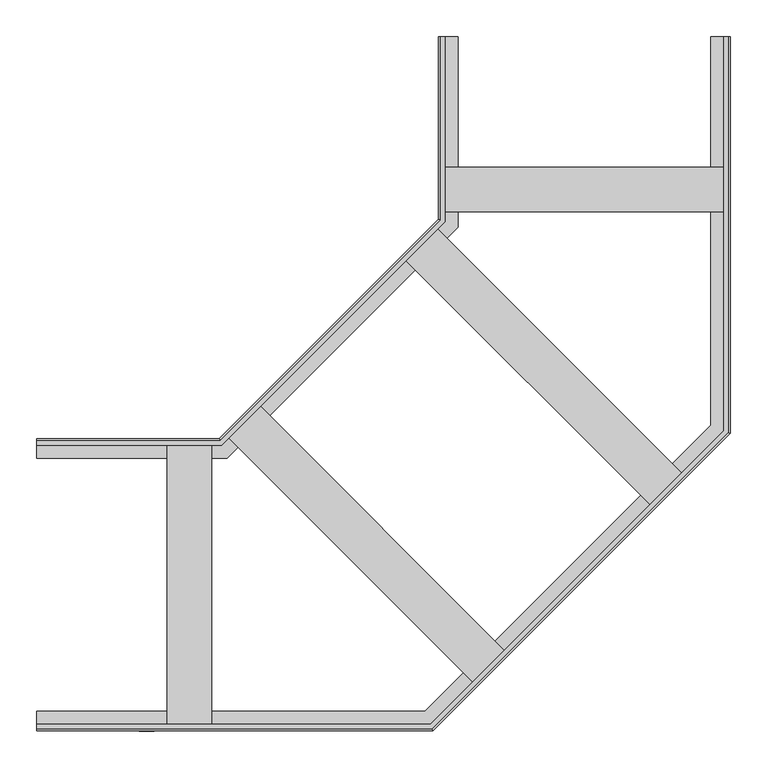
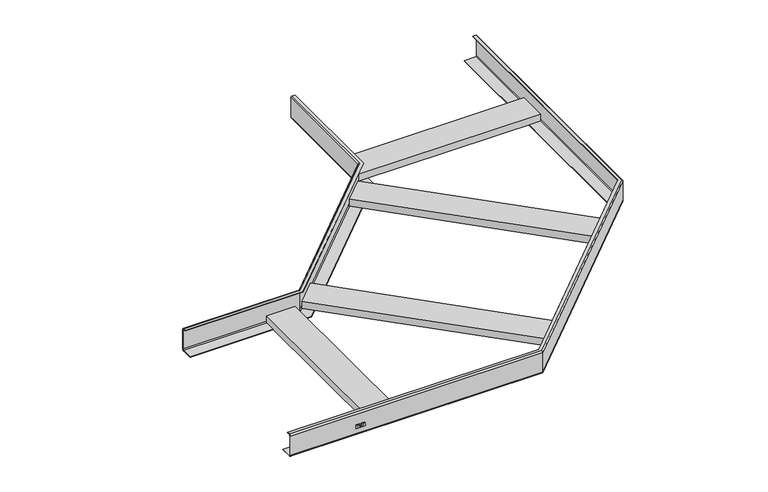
"""IFC4 building model written with IfcOpenShell, lengths in millimetres: cable carrier fitting geometry, КМ Профиль L Угол горизонтальный LGL90 : Угол горизонтальный LGL90."""

from ifc_helpers import new_model, si_unit, frame, origin, place, context, project, spatial, polyline, circle_curve, ellipse_curve, outline, extrude, source, transform, mapped, element, save
from ifc_brep_helpers import plane_surface, cylinder_surface, revolved_surface, advanced_brep


def cable_carrier_fitting_28980c71(model_context):
    return source(origin(), model_context, "Body", "SolidModel", [
        extrude(outline(polyline([(-1.986157, -609.2388781), (-9.737421, -609.2388781), (-9.737421, -605.6630512), (-6.5720802, -605.6630512), (-9.737421, -603.9588467), (-9.737421, -600.0604353), (-6.194034, -601.9277444), (-5.5086619, -604.1694955), (-1.986157, -601.703011), (-1.986157, -603.8289757), (-5.564509, -605.7316192), (-1.986157, -605.7316192), (-1.986157, -609.2388781)])), frame((0.0, -200.8, 0.0), z_axis=(0.0, 1.0, 0.0), x_axis=(0.0, 0.0, 1.0)), (0.0, 0.0, 1.0), 0.8),
        extrude(outline(polyline([(-9.737421, -597.9962759), (-5.0696135, -597.6126012), (-9.7434681, -596.2045824), (-9.7434681, -594.7300717), (-5.0541919, -593.2500032), (-9.7429915, -592.7725105), (-9.7429915, -588.8700699), (-1.9623682, -590.0615674), (-1.9623682, -593.2555223), (-5.0390232, -594.2768297), (-1.9647569, -595.0433304), (-1.9647569, -598.0740589), (-9.737421, -599.8943395), (-9.737421, -597.9962759)])), frame((0.0, -200.8, 0.0), z_axis=(0.0, 1.0, 0.0), x_axis=(0.0, 0.0, 1.0)), (0.0, 0.0, 1.0), 0.8),
        extrude(outline(polyline([(-510.0, 197.0), (-510.0, -197.0), (-571.0, -197.0), (-571.0, 197.0), (-510.0, 197.0)])), frame((0.0, 0.0, -24.0), z_axis=(0.0, 0.0, 1.0), x_axis=(1.0, 0.0, 0.0)), (0.0, 0.0, 1.0), 16.0),
        extrude(outline(polyline([(197.0, 571.0), (197.0, 510.0), (-197.0, 510.0), (-197.0, 571.0), (197.0, 571.0)])), frame((0.0, 0.0, -24.0), z_axis=(0.0, 0.0, 1.0), x_axis=(1.0, 0.0, 0.0)), (0.0, 0.0, 1.0), 16.0),
        extrude(outline(polyline([(137.2899346, 148.5679298), (94.156421, 105.4344161), (-248.0832611, 447.6740982), (-204.9497475, 490.8076118), (137.2899346, 148.5679298)])), frame((0.0, 0.0, -24.0), z_axis=(0.0, 0.0, 1.0), x_axis=(1.0, 0.0, 0.0)), (0.0, 0.0, 1.0), 16.0),
        extrude(outline(polyline([(-105.4344161, -94.156421), (-148.5679298, -137.2899346), (-490.8076118, 204.9497475), (-447.6740982, 248.0832611), (-105.4344161, -94.156421)])), frame((0.0, 0.0, -24.0), z_axis=(0.0, 0.0, 1.0), x_axis=(1.0, 0.0, 0.0)), (0.0, 0.0, 1.0), 16.0),
        advanced_brep(
        [(191.0, 750.0, 25.0), (197.0, 750.0, 25.0), (200.0, 750.0, 22.0), (200.0, 750.0, -22.0), (197.0, 750.0, -25.0), (173.0, 750.0, -25.0), (173.0, 750.0, -24.0), (197.0, 750.0, -24.0), (199.0, 750.0, -22.0), (199.0, 750.0, 22.0), (197.0, 750.0, 24.0), (191.0, 750.0, 24.0), (191.0, 210.7632765, 25.0), (-210.7632765, -191.0, 25.0), (-750.0, -191.0, 25.0), (-750.0, -197.0, 25.0), (-208.2779951, -197.0, 25.0), (197.0, 208.2779951, 25.0), (200.0, 207.0353544, 22.0), (200.0, 207.0353544, -22.0), (197.0, 208.2779951, -25.0), (-208.2779951, -197.0, -25.0), (-750.0, -197.0, -25.0), (-750.0, -173.0, -25.0), (-218.2191206, -173.0, -25.0), (173.0, 218.2191206, -25.0), (173.0, 218.2191206, -24.0), (-218.2191206, -173.0, -24.0), (-750.0, -173.0, -24.0), (-750.0, -197.0, -24.0), (-208.2779951, -197.0, -24.0), (197.0, 208.2779951, -24.0), (199.0, 207.449568, -22.0), (199.0, 207.449568, 22.0), (197.0, 208.2779951, 24.0), (-208.2779951, -197.0, 24.0), (-750.0, -197.0, 24.0), (-750.0, -191.0, 24.0), (-210.7632765, -191.0, 24.0), (191.0, 210.7632765, 24.0), (-207.0353544, -200.0, 22.0), (-207.0353544, -200.0, -22.0), (-207.449568, -199.0, -22.0), (-207.449568, -199.0, 22.0), (-750.0, -199.0, 22.0), (-750.0, -199.0, -22.0), (-750.0, -200.0, -22.0), (-750.0, -200.0, 22.0)],
        [
            (0, 1),
            (1, 2, circle_curve(frame((197.0, 750.0, 22.0), z_axis=(0.0, 1.0, 0.0), x_axis=(-1.0, 0.0, 0.0)), 3.0)),
            (2, 3),
            (3, 4, circle_curve(frame((197.0, 750.0, -22.0), z_axis=(0.0, 1.0, 0.0), x_axis=(-1.0, 0.0, 0.0)), 3.0)),
            (4, 5),
            (5, 6),
            (6, 7),
            (7, 8, circle_curve(frame((197.0, 750.0, -22.0), z_axis=(0.0, -1.0, 0.0), x_axis=(-1.0, 0.0, 0.0)), 2.0)),
            (8, 9),
            (9, 10, circle_curve(frame((197.0, 750.0, 22.0), z_axis=(0.0, -1.0, 0.0), x_axis=(-1.0, 0.0, 0.0)), 2.0)),
            (10, 11),
            (11, 0),
            (0, 12),
            (12, 13),
            (13, 14),
            (14, 15),
            (15, 16),
            (16, 17),
            (17, 1),
            (17, 18, ellipse_curve(frame((197.0, 208.2779951, 22.0), z_axis=(0.3826834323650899, 0.9238795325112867, 0.0), x_axis=(-0.9238795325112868, 0.3826834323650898, 0.0)), 3.2471766, 3.0)),
            (18, 2),
            (18, 19),
            (19, 3),
            (19, 20, ellipse_curve(frame((197.0, 208.2779951, -22.0), z_axis=(0.3826834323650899, 0.9238795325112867, 0.0), x_axis=(-0.9238795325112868, 0.3826834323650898, 0.0)), 3.2471766, 3.0)),
            (20, 4),
            (20, 21),
            (21, 22),
            (22, 23),
            (23, 24),
            (24, 25),
            (25, 5),
            (25, 26),
            (26, 6),
            (26, 27),
            (27, 28),
            (28, 29),
            (29, 30),
            (30, 31),
            (31, 7),
            (31, 32, ellipse_curve(frame((197.0, 208.2779951, -22.0), z_axis=(-0.3826834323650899, -0.9238795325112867, 0.0), x_axis=(0.9238795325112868, -0.3826834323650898, 0.0)), 2.1647844, 2.0)),
            (32, 8),
            (32, 33),
            (33, 9),
            (33, 34, ellipse_curve(frame((197.0, 208.2779951, 22.0), z_axis=(-0.3826834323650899, -0.9238795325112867, 0.0), x_axis=(0.9238795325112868, -0.3826834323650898, 0.0)), 2.1647844, 2.0)),
            (34, 10),
            (34, 35),
            (35, 36),
            (36, 37),
            (37, 38),
            (38, 39),
            (39, 11),
            (39, 12),
            (16, 40, ellipse_curve(frame((-208.2779951, -197.0, 22.0), z_axis=(0.9238795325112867, 0.38268343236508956, 0.0), x_axis=(-0.3826834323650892, 0.923879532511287, 0.0)), 3.2471766, 3.0)),
            (40, 18),
            (40, 41),
            (41, 19),
            (41, 21, ellipse_curve(frame((-208.2779951, -197.0, -22.0), z_axis=(0.9238795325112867, 0.38268343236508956, 0.0), x_axis=(-0.3826834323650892, 0.923879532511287, 0.0)), 3.2471766, 3.0)),
            (24, 27),
            (30, 42, ellipse_curve(frame((-208.2779951, -197.0, -22.0), z_axis=(-0.9238795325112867, -0.38268343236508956, 0.0), x_axis=(0.3826834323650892, -0.923879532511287, 0.0)), 2.1647844, 2.0)),
            (42, 32),
            (42, 43),
            (43, 33),
            (43, 35, ellipse_curve(frame((-208.2779951, -197.0, 22.0), z_axis=(-0.9238795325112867, -0.38268343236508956, 0.0), x_axis=(0.3826834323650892, -0.923879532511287, 0.0)), 2.1647844, 2.0)),
            (38, 13),
            (14, 37),
            (36, 44, circle_curve(frame((-750.0, -197.0, 22.0), z_axis=(1.0, 0.0, 0.0), x_axis=(0.0, 1.0, 0.0)), 2.0)),
            (44, 45),
            (45, 29, circle_curve(frame((-750.0, -197.0, -22.0), z_axis=(1.0, 0.0, 0.0), x_axis=(0.0, 1.0, 0.0)), 2.0)),
            (28, 23),
            (22, 46, circle_curve(frame((-750.0, -197.0, -22.0), z_axis=(-1.0, 0.0, 0.0), x_axis=(0.0, 1.0, 0.0)), 3.0)),
            (46, 47),
            (47, 15, circle_curve(frame((-750.0, -197.0, 22.0), z_axis=(-1.0, 0.0, 0.0), x_axis=(0.0, 1.0, 0.0)), 3.0)),
            (47, 40),
            (46, 41),
            (45, 42),
            (44, 43),
        ],
        [
            plane_surface(frame((200.0, 750.0, -25.0), z_axis=(0.0, 1.0, 0.0), x_axis=(0.0, 0.0, -1.0))),
            plane_surface(frame((191.0, 750.0, 25.0), z_axis=(0.0, 0.0, 1.0), x_axis=(0.0, -1.0, 0.0))),
            cylinder_surface(frame((197.0, 750.0, 22.0), z_axis=(0.0, 1.0, 0.0), x_axis=(-1.0, 0.0, 0.0)), 3.0),
            plane_surface(frame((200.0, 750.0, 22.0), z_axis=(1.0, 0.0, 0.0), x_axis=(0.0, -1.0, 0.0))),
            cylinder_surface(frame((197.0, 750.0, -22.0), z_axis=(0.0, 1.0, 0.0), x_axis=(-1.0, 0.0, 0.0)), 3.0),
            plane_surface(frame((197.0, 750.0, -25.0), z_axis=(0.0, 0.0, -1.0), x_axis=(0.0, -1.0, 0.0))),
            plane_surface(frame((173.0, 750.0, -25.0), z_axis=(-1.0, 0.0, 0.0), x_axis=(0.0, -1.0, 0.0))),
            plane_surface(frame((173.0, 750.0, -24.0), z_axis=(0.0, 0.0, 1.0), x_axis=(0.0, -1.0, 0.0))),
            revolved_surface(polyline([(195.0, 207.44956797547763, -22.0), (195.0, 750.0, -22.0)]), (197.0, 750.0, -22.0), (0.0, -1.0, 0.0)),
            plane_surface(frame((199.0, 750.0, -22.0), z_axis=(-1.0, 0.0, 0.0), x_axis=(0.0, -1.0, 0.0))),
            revolved_surface(polyline([(195.0, 207.44956797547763, 22.0), (195.0, 750.0, 22.0)]), (197.0, 750.0, 22.0), (0.0, -1.0, 0.0)),
            plane_surface(frame((197.0, 750.0, 24.0), z_axis=(0.0, 0.0, -1.0), x_axis=(0.0, -1.0, 0.0))),
            plane_surface(frame((191.0, 750.0, 24.0), z_axis=(-1.0, 0.0, 0.0), x_axis=(0.0, -1.0, 0.0))),
            cylinder_surface(frame((197.8786797, 209.1566748, 22.0), z_axis=(0.7071067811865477, 0.7071067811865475, 0.0), x_axis=(-0.7071067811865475, 0.7071067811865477, 0.0)), 3.0),
            plane_surface(frame((200.0, 207.0353544, 22.0), z_axis=(0.7071067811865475, -0.7071067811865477, 0.0), x_axis=(-0.7071067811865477, -0.7071067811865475, 0.0))),
            cylinder_surface(frame((197.8786797, 209.1566748, -22.0), z_axis=(0.7071067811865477, 0.7071067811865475, 0.0), x_axis=(-0.7071067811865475, 0.7071067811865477, 0.0)), 3.0),
            plane_surface(frame((173.0, 218.2191206, -25.0), z_axis=(-0.7071067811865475, 0.7071067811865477, 0.0), x_axis=(-0.7071067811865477, -0.7071067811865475, 0.0))),
            revolved_surface(polyline([(-210.2779951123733, -196.17157288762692, -22.0), (196.1715728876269, 210.2779951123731, -22.0)]), (197.8786797, 209.1566748, -22.0), (-0.7071067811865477, -0.7071067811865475, 0.0)),
            plane_surface(frame((199.0, 207.449568, -22.0), z_axis=(-0.7071067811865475, 0.7071067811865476, 0.0), x_axis=(-0.7071067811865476, -0.7071067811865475, 0.0))),
            revolved_surface(polyline([(-210.2779951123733, -196.17157288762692, 22.0), (196.1715728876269, 210.2779951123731, 22.0)]), (197.8786797, 209.1566748, 22.0), (-0.7071067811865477, -0.7071067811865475, 0.0)),
            plane_surface(frame((191.0, 210.7632765, 24.0), z_axis=(-0.7071067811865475, 0.7071067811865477, 0.0), x_axis=(-0.7071067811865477, -0.7071067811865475, 0.0))),
            plane_surface(frame((-750.0, -200.0, -25.0), z_axis=(-1.0, 0.0, 0.0), x_axis=(0.0, 0.0, -1.0))),
            cylinder_surface(frame((-207.0353544, -197.0, 22.0), z_axis=(1.0, 0.0, 0.0), x_axis=(0.0, 1.0, 0.0)), 3.0),
            plane_surface(frame((-207.0353544, -200.0, 22.0), z_axis=(0.0, -1.0, 0.0), x_axis=(-1.0, 0.0, 0.0))),
            cylinder_surface(frame((-207.0353544, -197.0, -22.0), z_axis=(1.0, 0.0, 0.0), x_axis=(0.0, 1.0, 0.0)), 3.0),
            plane_surface(frame((-218.2191206, -173.0, -25.0), z_axis=(0.0, 1.0, 0.0), x_axis=(-1.0, 0.0, 0.0))),
            revolved_surface(polyline([(-750.0, -195.0, -22.0), (-207.4495679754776, -195.0, -22.0)]), (-207.0353544, -197.0, -22.0), (-1.0, 0.0, 0.0)),
            plane_surface(frame((-207.449568, -199.0, -22.0), z_axis=(0.0, 1.0, 0.0), x_axis=(-1.0, 0.0, 0.0))),
            revolved_surface(polyline([(-750.0, -195.0, 22.0), (-207.4495679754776, -195.0, 22.0)]), (-207.0353544, -197.0, 22.0), (-1.0, 0.0, 0.0)),
            plane_surface(frame((-210.7632765, -191.0, 24.0), z_axis=(0.0, 1.0, 0.0), x_axis=(-1.0, 0.0, 0.0))),
        ],
        [
            (0, [[1, 2, 3, 4, 5, 6, 7, 8, 9, 10, 11, 12]]),
            (1, [[-1, 13, 14, 15, 16, 17, 18, 19]]),
            (2, [[-2, -19, 20, 21]]),
            (3, [[-3, -21, 22, 23]]),
            (4, [[-4, -23, 24, 25]]),
            (5, [[-5, -25, 26, 27, 28, 29, 30, 31]]),
            (6, [[-6, -31, 32, 33]]),
            (7, [[-7, -33, 34, 35, 36, 37, 38, 39]]),
            (8, [[-8, -39, 40, 41]]),
            (9, [[-9, -41, 42, 43]]),
            (10, [[-10, -43, 44, 45]]),
            (11, [[-11, -45, 46, 47, 48, 49, 50, 51]]),
            (12, [[-12, -51, 52, -13]]),
            (13, [[-20, -18, 53, 54]]),
            (14, [[-22, -54, 55, 56]]),
            (15, [[-24, -56, 57, -26]]),
            (16, [[-32, -30, 58, -34]]),
            (17, [[-40, -38, 59, 60]]),
            (18, [[-42, -60, 61, 62]]),
            (19, [[-44, -62, 63, -46]]),
            (20, [[-52, -50, 64, -14]]),
            (21, [[65, -48, 66, 67, 68, -36, 69, -28, 70, 71, 72, -16]]),
            (22, [[-53, -17, -72, 73]]),
            (23, [[-55, -73, -71, 74]]),
            (24, [[-57, -74, -70, -27]]),
            (25, [[-58, -29, -69, -35]]),
            (26, [[-59, -37, -68, 75]]),
            (27, [[-61, -75, -67, 76]]),
            (28, [[-63, -76, -66, -47]]),
            (29, [[-64, -49, -65, -15]]),
        ],
    ),
        advanced_brep(
        [(-750.0, 191.0, 25.0), (-750.0, 197.0, 25.0), (-750.0, 200.0, 22.0), (-750.0, 200.0, -22.0), (-750.0, 197.0, -25.0), (-750.0, 173.0, -25.0), (-750.0, 173.0, -24.0), (-750.0, 197.0, -24.0), (-750.0, 199.0, -22.0), (-750.0, 199.0, 22.0), (-750.0, 197.0, 24.0), (-750.0, 191.0, 24.0), (-496.2720779, 191.0, 25.0), (-191.0, 496.2720779, 25.0), (-191.0, 750.0, 25.0), (-197.0, 750.0, 25.0), (-197.0, 498.7573593, 25.0), (-498.7573593, 197.0, 25.0), (-500.0, 200.0, 22.0), (-500.0, 200.0, -22.0), (-498.7573593, 197.0, -25.0), (-197.0, 498.7573593, -25.0), (-197.0, 750.0, -25.0), (-173.0, 750.0, -25.0), (-173.0, 488.8162338, -25.0), (-488.8162338, 173.0, -25.0), (-488.8162338, 173.0, -24.0), (-200.0, 500.0, 22.0), (-200.0, 500.0, -22.0), (-173.0, 488.8162338, -24.0), (-191.0, 750.0, 24.0), (-197.0, 750.0, 24.0), (-199.0, 750.0, 22.0), (-199.0, 750.0, -22.0), (-197.0, 750.0, -24.0), (-173.0, 750.0, -24.0), (-200.0, 750.0, -22.0), (-200.0, 750.0, 22.0), (-197.0, 498.7573593, -24.0), (-498.7573593, 197.0, -24.0), (-499.5857864, 199.0, -22.0), (-499.5857864, 199.0, 22.0), (-498.7573593, 197.0, 24.0), (-197.0, 498.7573593, 24.0), (-191.0, 496.2720779, 24.0), (-496.2720779, 191.0, 24.0), (-199.0, 499.5857864, -22.0), (-199.0, 499.5857864, 22.0)],
        [
            (0, 1),
            (1, 2, circle_curve(frame((-750.0, 197.0, 22.0), z_axis=(-1.0, 0.0, 0.0), x_axis=(0.0, -1.0, 0.0)), 3.0)),
            (2, 3),
            (3, 4, circle_curve(frame((-750.0, 197.0, -22.0), z_axis=(-1.0, 0.0, 0.0), x_axis=(0.0, -1.0, 0.0)), 3.0)),
            (4, 5),
            (5, 6),
            (6, 7),
            (7, 8, circle_curve(frame((-750.0, 197.0, -22.0), z_axis=(1.0, 0.0, 0.0), x_axis=(0.0, -1.0, 0.0)), 2.0)),
            (8, 9),
            (9, 10, circle_curve(frame((-750.0, 197.0, 22.0), z_axis=(1.0, 0.0, 0.0), x_axis=(0.0, -1.0, 0.0)), 2.0)),
            (10, 11),
            (11, 0),
            (0, 12),
            (12, 13),
            (13, 14),
            (14, 15),
            (15, 16),
            (16, 17),
            (17, 1),
            (2, 18),
            (18, 19),
            (19, 3),
            (4, 20),
            (20, 21),
            (21, 22),
            (22, 23),
            (23, 24),
            (24, 25),
            (25, 5),
            (25, 26),
            (26, 6),
            (18, 27),
            (27, 28),
            (28, 19),
            (24, 29),
            (29, 26),
            (14, 30),
            (30, 31),
            (31, 32, circle_curve(frame((-197.0, 750.0, 22.0), z_axis=(0.0, -1.0, 0.0), x_axis=(1.0, 0.0, 0.0)), 2.0)),
            (32, 33),
            (33, 34, circle_curve(frame((-197.0, 750.0, -22.0), z_axis=(0.0, -1.0, 0.0), x_axis=(1.0, 0.0, 0.0)), 2.0)),
            (34, 35),
            (35, 23),
            (22, 36, circle_curve(frame((-197.0, 750.0, -22.0), z_axis=(0.0, 1.0, 0.0), x_axis=(1.0, 0.0, 0.0)), 3.0)),
            (36, 37),
            (37, 15, circle_curve(frame((-197.0, 750.0, 22.0), z_axis=(0.0, 1.0, 0.0), x_axis=(1.0, 0.0, 0.0)), 3.0)),
            (27, 37),
            (36, 28),
            (35, 29),
            (17, 18, ellipse_curve(frame((-498.7573593, 197.0, 22.0), z_axis=(-0.9238795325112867, -0.3826834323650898, 0.0), x_axis=(-0.3826834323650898, 0.9238795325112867, 0.0)), 3.2471766, 3.0)),
            (19, 20, ellipse_curve(frame((-498.7573593, 197.0, -22.0), z_axis=(-0.9238795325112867, -0.3826834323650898, 0.0), x_axis=(-0.3826834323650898, 0.9238795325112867, 0.0)), 3.2471766, 3.0)),
            (34, 38),
            (38, 39),
            (39, 7),
            (39, 40, ellipse_curve(frame((-498.7573593, 197.0, -22.0), z_axis=(0.9238795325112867, 0.3826834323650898, 0.0), x_axis=(0.3826834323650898, -0.9238795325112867, 0.0)), 2.1647844, 2.0)),
            (40, 8),
            (40, 41),
            (41, 9),
            (41, 42, ellipse_curve(frame((-498.7573593, 197.0, 22.0), z_axis=(0.9238795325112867, 0.3826834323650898, 0.0), x_axis=(0.3826834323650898, -0.9238795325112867, 0.0)), 2.1647844, 2.0)),
            (42, 10),
            (42, 43),
            (43, 31),
            (30, 44),
            (44, 45),
            (45, 11),
            (45, 12),
            (16, 27, ellipse_curve(frame((-197.0, 498.7573593, 22.0), z_axis=(-0.3826834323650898, -0.9238795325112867, 0.0), x_axis=(-0.9238795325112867, 0.3826834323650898, 0.0)), 3.2471766, 3.0)),
            (28, 21, ellipse_curve(frame((-197.0, 498.7573593, -22.0), z_axis=(-0.3826834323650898, -0.9238795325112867, 0.0), x_axis=(-0.9238795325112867, 0.3826834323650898, 0.0)), 3.2471766, 3.0)),
            (38, 46, ellipse_curve(frame((-197.0, 498.7573593, -22.0), z_axis=(0.3826834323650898, 0.9238795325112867, 0.0), x_axis=(0.9238795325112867, -0.3826834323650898, 0.0)), 2.1647844, 2.0)),
            (46, 40),
            (46, 47),
            (47, 41),
            (47, 43, ellipse_curve(frame((-197.0, 498.7573593, 22.0), z_axis=(0.3826834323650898, 0.9238795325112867, 0.0), x_axis=(0.9238795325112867, -0.3826834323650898, 0.0)), 2.1647844, 2.0)),
            (44, 13),
            (33, 46),
            (32, 47),
        ],
        [
            plane_surface(frame((-750.0, 200.0, -25.0), z_axis=(-1.0, 0.0, 0.0), x_axis=(0.0, 0.0, -1.0))),
            plane_surface(frame((-750.0, 191.0, 25.0), z_axis=(0.0, 0.0, 1.0), x_axis=(1.0, 0.0, 0.0))),
            plane_surface(frame((-750.0, 200.0, 22.0), z_axis=(0.0, 1.0, 0.0), x_axis=(1.0, 0.0, 0.0))),
            plane_surface(frame((-750.0, 197.0, -25.0), z_axis=(0.0, 0.0, -1.0), x_axis=(1.0, 0.0, 0.0))),
            plane_surface(frame((-750.0, 173.0, -25.0), z_axis=(0.0, -1.0, 0.0), x_axis=(1.0, 0.0, 0.0))),
            plane_surface(frame((-500.0, 200.0, 22.0), z_axis=(-0.7071067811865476, 0.7071067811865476, 0.0), x_axis=(0.7071067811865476, 0.7071067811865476, 0.0))),
            plane_surface(frame((-488.8162338, 173.0, -25.0), z_axis=(0.7071067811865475, -0.7071067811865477, 0.0), x_axis=(0.7071067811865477, 0.7071067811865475, 0.0))),
            plane_surface(frame((-200.0, 750.0, -25.0), z_axis=(0.0, 1.0, 0.0), x_axis=(0.0, 0.0, -1.0))),
            plane_surface(frame((-200.0, 500.0, 22.0), z_axis=(-1.0, 0.0, 0.0), x_axis=(0.0, 1.0, 0.0))),
            plane_surface(frame((-173.0, 488.8162338, -25.0), z_axis=(1.0, 0.0, 0.0), x_axis=(0.0, 1.0, 0.0))),
            cylinder_surface(frame((-750.0, 197.0, 22.0), z_axis=(-1.0, 0.0, 0.0), x_axis=(0.0, -1.0, 0.0)), 3.0),
            cylinder_surface(frame((-750.0, 197.0, -22.0), z_axis=(-1.0, 0.0, 0.0), x_axis=(0.0, -1.0, 0.0)), 3.0),
            plane_surface(frame((-750.0, 173.0, -24.0), z_axis=(0.0, 0.0, 1.0), x_axis=(1.0, 0.0, 0.0))),
            revolved_surface(polyline([(-497.9289321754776, 195.0, -22.0), (-750.0, 195.0, -22.0)]), (-750.0, 197.0, -22.0), (1.0, 0.0, 0.0)),
            plane_surface(frame((-750.0, 199.0, -22.0), z_axis=(0.0, -1.0, 0.0), x_axis=(1.0, 0.0, 0.0))),
            revolved_surface(polyline([(-497.9289321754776, 195.0, 22.0), (-750.0, 195.0, 22.0)]), (-750.0, 197.0, 22.0), (1.0, 0.0, 0.0)),
            plane_surface(frame((-750.0, 197.0, 24.0), z_axis=(0.0, 0.0, -1.0), x_axis=(1.0, 0.0, 0.0))),
            plane_surface(frame((-750.0, 191.0, 24.0), z_axis=(0.0, -1.0, 0.0), x_axis=(1.0, 0.0, 0.0))),
            cylinder_surface(frame((-497.8786797, 197.8786797, 22.0), z_axis=(-0.7071067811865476, -0.7071067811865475, 0.0), x_axis=(0.7071067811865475, -0.7071067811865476, 0.0)), 3.0),
            cylinder_surface(frame((-497.8786797, 197.8786797, -22.0), z_axis=(-0.7071067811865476, -0.7071067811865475, 0.0), x_axis=(0.7071067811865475, -0.7071067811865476, 0.0)), 3.0),
            revolved_surface(polyline([(-195.00000005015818, 497.92893222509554, -22.0), (-497.9289322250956, 195.00000005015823, -22.0)]), (-497.8786797, 197.8786797, -22.0), (0.7071067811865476, 0.7071067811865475, 0.0)),
            plane_surface(frame((-499.5857864, 199.0, -22.0), z_axis=(0.7071067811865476, -0.7071067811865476, 0.0), x_axis=(0.7071067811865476, 0.7071067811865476, 0.0))),
            revolved_surface(polyline([(-195.00000005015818, 497.92893222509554, 22.0), (-497.9289322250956, 195.00000005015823, 22.0)]), (-497.8786797, 197.8786797, 22.0), (0.7071067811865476, 0.7071067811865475, 0.0)),
            plane_surface(frame((-496.2720779, 191.0, 24.0), z_axis=(0.7071067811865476, -0.7071067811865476, 0.0), x_axis=(0.7071067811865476, 0.7071067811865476, 0.0))),
            cylinder_surface(frame((-197.0, 500.0, 22.0), z_axis=(0.0, -1.0, 0.0), x_axis=(1.0, 0.0, 0.0)), 3.0),
            cylinder_surface(frame((-197.0, 500.0, -22.0), z_axis=(0.0, -1.0, 0.0), x_axis=(1.0, 0.0, 0.0)), 3.0),
            revolved_surface(polyline([(-195.0, 750.0, -22.0), (-195.0, 497.9289321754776, -22.0)]), (-197.0, 500.0, -22.0), (0.0, 1.0, 0.0)),
            plane_surface(frame((-199.0, 499.5857864, -22.0), z_axis=(1.0, 0.0, 0.0), x_axis=(0.0, 1.0, 0.0))),
            revolved_surface(polyline([(-195.0, 750.0, 22.0), (-195.0, 497.9289321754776, 22.0)]), (-197.0, 500.0, 22.0), (0.0, 1.0, 0.0)),
            plane_surface(frame((-191.0, 496.2720779, 24.0), z_axis=(1.0, 0.0, 0.0), x_axis=(0.0, 1.0, 0.0))),
        ],
        [
            (0, [[1, 2, 3, 4, 5, 6, 7, 8, 9, 10, 11, 12]]),
            (1, [[-1, 13, 14, 15, 16, 17, 18, 19]]),
            (2, [[-3, 20, 21, 22]]),
            (3, [[-5, 23, 24, 25, 26, 27, 28, 29]]),
            (4, [[-6, -29, 30, 31]]),
            (5, [[-21, 32, 33, 34]]),
            (6, [[-30, -28, 35, 36]]),
            (7, [[37, 38, 39, 40, 41, 42, 43, -26, 44, 45, 46, -16]]),
            (8, [[-33, 47, -45, 48]]),
            (9, [[-35, -27, -43, 49]]),
            (10, [[-2, -19, 50, -20]]),
            (11, [[-4, -22, 51, -23]]),
            (12, [[-7, -31, -36, -49, -42, 52, 53, 54]]),
            (13, [[-8, -54, 55, 56]]),
            (14, [[-9, -56, 57, 58]]),
            (15, [[-10, -58, 59, 60]]),
            (16, [[-11, -60, 61, 62, -38, 63, 64, 65]]),
            (17, [[-12, -65, 66, -13]]),
            (18, [[-50, -18, 67, -32]]),
            (19, [[-51, -34, 68, -24]]),
            (20, [[-55, -53, 69, 70]]),
            (21, [[-57, -70, 71, 72]]),
            (22, [[-59, -72, 73, -61]]),
            (23, [[-66, -64, 74, -14]]),
            (24, [[-67, -17, -46, -47]]),
            (25, [[-68, -48, -44, -25]]),
            (26, [[-69, -52, -41, 75]]),
            (27, [[-71, -75, -40, 76]]),
            (28, [[-73, -76, -39, -62]]),
            (29, [[-74, -63, -37, -15]]),
        ],
    ),
    ])


if __name__ == "__main__":
    model = new_model("IFC4")
    model_context = context("Model", 3, world=origin())
    ifc_project = project(units=[si_unit("LENGTHUNIT", "METRE", prefix="MILLI")], contexts=[model_context])
    site = spatial("IfcSite", under=ifc_project)
    building = spatial("IfcBuilding", under=site)
    placement = place(None, origin())
    cable_carrier_fitting_shape = cable_carrier_fitting_28980c71(model_context)
    element("IfcCableCarrierFitting", 1, ObjectType="КМ Профиль L Угол горизонтальный LGL90 : Угол горизонтальный LGL90", at=placement, inside=building, context=model_context, shape_type="MappedRepresentation", body=[
        mapped(cable_carrier_fitting_shape, transform((0.0, 0.0, 0.0), x_axis=(1.0, 0.0, 0.0), y_axis=(0.0, 1.0, 0.0), z_axis=(0.0, 0.0, 1.0))),
    ])
    save(model, "model.ifc")
